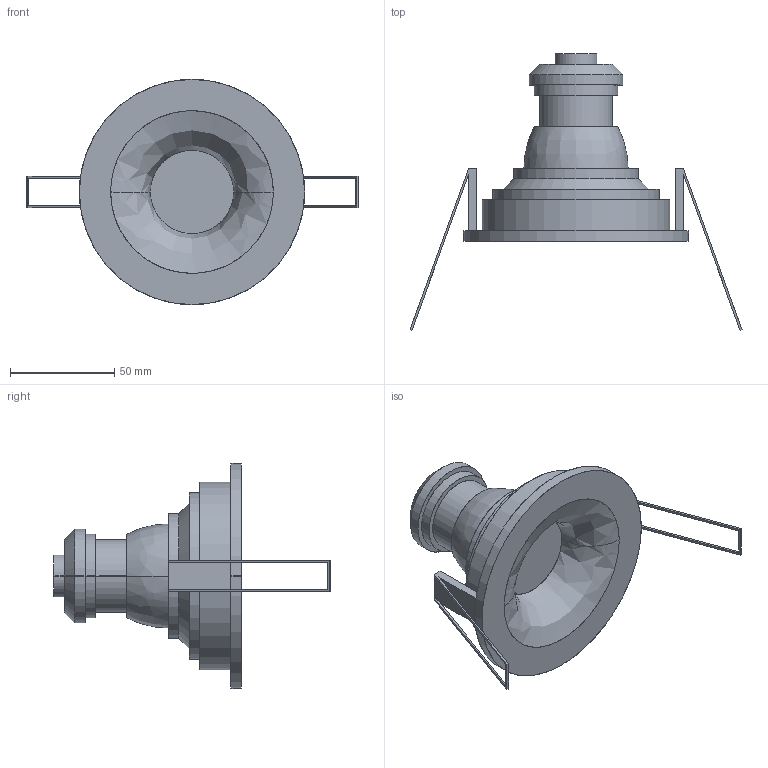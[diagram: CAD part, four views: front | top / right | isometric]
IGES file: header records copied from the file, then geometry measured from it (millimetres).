
Start section: SolidWorks IGES file using analytic representation for surfaces
Global section: file name: C:\Users\danielet\Desktop\3D CARLOS\MUSCA-E3947-3D\MUSCA-E3947-3D.IGS; native system: SolidWorks 2018; preprocessor: SolidWorks 2018; author: danielet; date: 220127.134754; units: millimetre
Bounding box: 159.27 x 132.64 x 108 mm (x, y, z)
Surface area: 39323.1 mm2 (no closed solid volume)
Topology: 0 solids, 0 shells, 59 faces, 1456 edges, 1456 vertices
Faces by surface type: bspline 39, revolution 20
